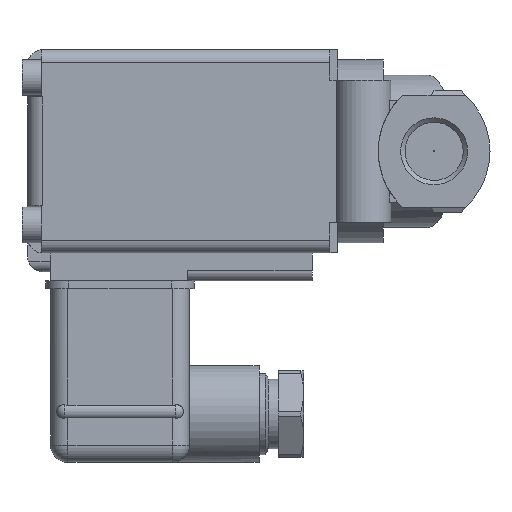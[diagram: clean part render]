
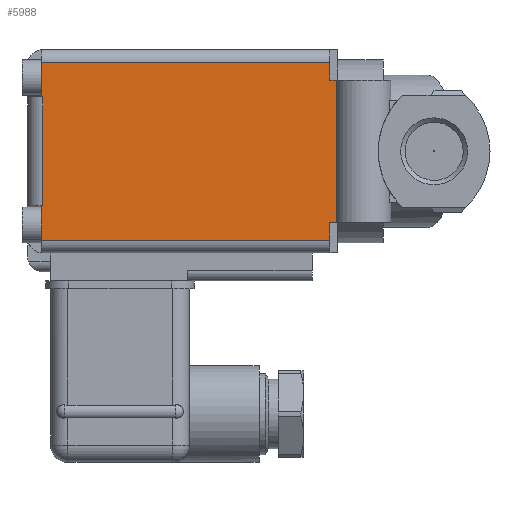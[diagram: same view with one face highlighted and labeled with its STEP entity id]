
A CAD part, left-side view. The second image highlights one B-rep face of the part: STEP entity #5988.
In plain terms, the highlighted planar face has unit normal (-1, 0, 0).
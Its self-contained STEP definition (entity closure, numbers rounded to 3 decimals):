
#482=ORIENTED_EDGE('',*,*,#1725,.T.);
#483=ORIENTED_EDGE('',*,*,#1726,.T.);
#484=ORIENTED_EDGE('',*,*,#1727,.T.);
#485=ORIENTED_EDGE('',*,*,#1728,.T.);
#486=ORIENTED_EDGE('',*,*,#1729,.F.);
#487=ORIENTED_EDGE('',*,*,#1730,.T.);
#488=ORIENTED_EDGE('',*,*,#1731,.F.);
#489=ORIENTED_EDGE('',*,*,#1732,.F.);
#490=ORIENTED_EDGE('',*,*,#1733,.F.);
#491=ORIENTED_EDGE('',*,*,#1734,.F.);
#492=ORIENTED_EDGE('',*,*,#1735,.F.);
#493=ORIENTED_EDGE('',*,*,#1736,.F.);
#1725=EDGE_CURVE('',#2333,#2334,#2715,.T.);
#1726=EDGE_CURVE('',#2334,#2335,#2716,.T.);
#1727=EDGE_CURVE('',#2335,#2336,#2717,.T.);
#1728=EDGE_CURVE('',#2336,#2337,#2718,.T.);
#1729=EDGE_CURVE('',#2338,#2337,#2719,.T.);
#1730=EDGE_CURVE('',#2338,#2339,#2720,.T.);
#1731=EDGE_CURVE('',#2340,#2339,#2721,.T.);
#1732=EDGE_CURVE('',#2341,#2340,#2722,.T.);
#1733=EDGE_CURVE('',#2342,#2341,#2723,.T.);
#1734=EDGE_CURVE('',#2343,#2342,#2724,.T.);
#1735=EDGE_CURVE('',#2344,#2343,#2725,.T.);
#1736=EDGE_CURVE('',#2333,#2344,#2726,.T.);
#2333=VERTEX_POINT('',#8276);
#2334=VERTEX_POINT('',#8277);
#2335=VERTEX_POINT('',#8279);
#2336=VERTEX_POINT('',#8281);
#2337=VERTEX_POINT('',#8283);
#2338=VERTEX_POINT('',#8285);
#2339=VERTEX_POINT('',#8287);
#2340=VERTEX_POINT('',#8289);
#2341=VERTEX_POINT('',#8291);
#2342=VERTEX_POINT('',#8293);
#2343=VERTEX_POINT('',#8295);
#2344=VERTEX_POINT('',#8297);
#2715=LINE('',#8275,#3125);
#2716=LINE('',#8278,#3126);
#2717=LINE('',#8280,#3127);
#2718=LINE('',#8282,#3128);
#2719=LINE('',#8284,#3129);
#2720=LINE('',#8286,#3130);
#2721=LINE('',#8288,#3131);
#2722=LINE('',#8290,#3132);
#2723=LINE('',#8292,#3133);
#2724=LINE('',#8294,#3134);
#2725=LINE('',#8296,#3135);
#2726=LINE('',#8298,#3136);
#3125=VECTOR('',#6842,1000.);
#3126=VECTOR('',#6843,1000.);
#3127=VECTOR('',#6844,1000.);
#3128=VECTOR('',#6845,1000.);
#3129=VECTOR('',#6846,1000.);
#3130=VECTOR('',#6847,1000.);
#3131=VECTOR('',#6848,1000.);
#3132=VECTOR('',#6849,1000.);
#3133=VECTOR('',#6850,1000.);
#3134=VECTOR('',#6851,1000.);
#3135=VECTOR('',#6852,1000.);
#3136=VECTOR('',#6853,1000.);
#3487=EDGE_LOOP('',(#482,#483,#484,#485,#486,#487,#488,#489,#490,#491,#492,
#493));
#3777=FACE_BOUND('',#3487,.T.);
#4049=PLANE('',#6276);
#5988=ADVANCED_FACE('',(#3777),#4049,.T.);
#6276=AXIS2_PLACEMENT_3D('',#8274,#6840,#6841);
#6840=DIRECTION('',(-1.,0.,0.));
#6841=DIRECTION('',(0.,0.,1.));
#6842=DIRECTION('',(0.,1.,0.));
#6843=DIRECTION('',(0.,0.,-1.));
#6844=DIRECTION('',(0.,-1.,0.));
#6845=DIRECTION('',(0.,0.,-1.));
#6846=DIRECTION('',(0.,-1.,0.));
#6847=DIRECTION('',(0.,0.,-1.));
#6848=DIRECTION('',(0.,1.,0.));
#6849=DIRECTION('',(0.,0.,-1.));
#6850=DIRECTION('',(0.,1.,0.));
#6851=DIRECTION('',(0.,0.,-1.));
#6852=DIRECTION('',(0.,-1.,0.));
#6853=DIRECTION('',(0.,0.,-1.));
#8274=CARTESIAN_POINT('',(-20.,-5.,-20.));
#8275=CARTESIAN_POINT('',(-20.,-5.,17.5));
#8276=CARTESIAN_POINT('',(-20.,-3.5,17.5));
#8277=CARTESIAN_POINT('',(-20.,53.3,17.5));
#8278=CARTESIAN_POINT('',(-20.,53.3,-20.));
#8279=CARTESIAN_POINT('',(-20.,53.3,10.7));
#8280=CARTESIAN_POINT('',(-20.,58.,10.7));
#8281=CARTESIAN_POINT('',(-20.,53.,10.7));
#8282=CARTESIAN_POINT('',(-20.,53.,10.7));
#8283=CARTESIAN_POINT('',(-20.,53.,-10.7));
#8284=CARTESIAN_POINT('',(-20.,58.,-10.7));
#8285=CARTESIAN_POINT('',(-20.,53.3,-10.7));
#8286=CARTESIAN_POINT('',(-20.,53.3,-20.));
#8287=CARTESIAN_POINT('',(-20.,53.3,-17.5));
#8288=CARTESIAN_POINT('',(-20.,-5.,-17.5));
#8289=CARTESIAN_POINT('',(-20.,-3.5,-17.5));
#8290=CARTESIAN_POINT('',(-20.,-3.5,-20.));
#8291=CARTESIAN_POINT('',(-20.,-3.5,-14.));
#8292=CARTESIAN_POINT('',(-20.,-5.,-14.));
#8293=CARTESIAN_POINT('',(-20.,-4.708,-14.));
#8294=CARTESIAN_POINT('',(-20.,-4.708,14.));
#8295=CARTESIAN_POINT('',(-20.,-4.708,14.));
#8296=CARTESIAN_POINT('',(-20.,-5.,14.));
#8297=CARTESIAN_POINT('',(-20.,-3.5,14.));
#8298=CARTESIAN_POINT('',(-20.,-3.5,-20.));
